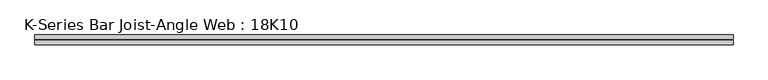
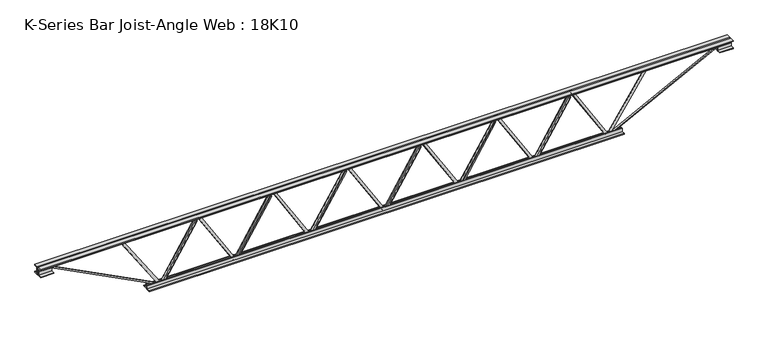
"""IFC4 building model written with IfcOpenShell, lengths in millimetres: beam geometry, K-Series Bar Joist-Angle Web : 18K10."""

from ifc_helpers import new_model, si_unit, frame, origin, place, context, project, spatial, polyline, outline, extrude, faceted_brep, source, transform, mapped, element, save


def k_series_bar_joist_angle_web_18k10_b23384f1(model_context):
    return source(origin(), model_context, "Body", "SolidModel", [
        extrude(outline(polyline([(-4.75, 4.7625), (-4.75, 0.0), (-17.45, 0.0), (-17.45, 4.7625), (-4.75, 4.7625)])), frame((1085.0781068, 0.0, -190.4), z_axis=(-0.5259305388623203, 0.0, 0.8505275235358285), x_axis=(0.0, -1.0, 0.0)), (0.0, 0.0, 1.0), 447.7221365),
        extrude(outline(polyline([(-225.325, 1118.3333333), (-206.275, 1118.3333333), (-206.275, 1117.292405), (225.325, 850.4090717), (225.325, 832.4), (206.275, 832.4), (206.275, 839.7909283), (-225.325, 1106.6742616), (-225.325, 1118.3333333)])), frame((0.0, 0.0, 0.0), z_axis=(0.0, 1.0, 0.0), x_axis=(0.0, 0.0, 1.0)), (0.0, 0.0, 1.0), 4.75),
        faceted_brep([(559.1666667, 0.0, -206.275), (559.1666667, 0.0, -225.325), (559.1666667, -4.75, -225.325), (559.1666667, -4.75, -206.275), (560.207595, 0.0, -206.275), (827.0909283, 0.0, 225.325), (845.1, 0.0, 225.325), (845.1, 0.0, 206.275), (837.7090717, 0.0, 206.275), (570.8257384, 0.0, -225.325), (570.8257384, -4.75, -225.325), (592.4218932, -4.75, -190.4), (588.3712559, -4.75, -187.8952558), (823.8420004, -4.75, 192.9047442), (827.8926377, -4.75, 190.4), (837.7090717, -4.75, 206.275), (845.1, -4.75, 206.275), (845.1, -4.75, 225.325), (827.0909283, -4.75, 225.325), (560.207595, -4.75, -206.275), (827.8926377, -17.4625, 190.4), (592.4218932, -17.4625, -190.4), (588.3712559, -17.4625, -187.8952558), (823.8420004, -17.4625, 192.9047442)], [[[0, 1, 2, 3]], [[1, 0, 4, 5, 6, 7, 8, 9]], [[2, 1, 9, 10]], [[3, 2, 10, 11, 12, 13, 14, 15, 16, 17, 18, 19]], [[0, 3, 19, 4]], [[9, 8, 15, 14, 20, 21, 11, 10]], [[5, 4, 19, 18]], [[7, 6, 17, 16]], [[8, 7, 16, 15]], [[6, 5, 18, 17]], [[21, 22, 12, 11]], [[20, 14, 13, 23]], [[22, 21, 20, 23]], [[12, 22, 23, 13]]]),
        extrude(outline(polyline([(-4.75, 4.7625001), (-4.75, 0.0), (-17.45, 0.0), (-17.45, 4.7625001), (-4.75, 4.7625001)])), frame((525.9114401, 0.0, -190.4), z_axis=(-0.5259305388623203, 0.0, 0.8505275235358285), x_axis=(0.0, -1.0, 0.0)), (0.0, 0.0, 1.0), 447.7221365),
        extrude(outline(polyline([(-225.325, 559.1666667), (-206.275, 559.1666667), (-206.275, 558.1257384), (225.325, 291.242405), (225.325, 273.2333333), (206.275, 273.2333333), (206.275, 280.6242616), (-225.325, 547.507595), (-225.325, 559.1666667)])), frame((0.0, 0.0, 0.0), z_axis=(0.0, 1.0, 0.0), x_axis=(0.0, 0.0, 1.0)), (0.0, 0.0, 1.0), 4.75),
        faceted_brep([(0.0, 0.0, -206.275), (0.0, 0.0, -225.325), (0.0, -4.75, -225.325), (0.0, -4.75, -206.275), (1.0409283, 0.0, -206.275), (267.9242616, 0.0, 225.325), (285.9333333, 0.0, 225.325), (285.9333333, 0.0, 206.275), (278.542405, 0.0, 206.275), (11.6590717, 0.0, -225.325), (11.6590717, -4.75, -225.325), (33.2552265, -4.75, -190.4), (29.2045892, -4.75, -187.8952558), (264.6753337, -4.75, 192.9047442), (268.725971, -4.75, 190.4), (278.542405, -4.75, 206.275), (285.9333333, -4.75, 206.275), (285.9333333, -4.75, 225.325), (267.9242616, -4.75, 225.325), (1.0409283, -4.75, -206.275), (268.725971, -17.4625, 190.4), (33.2552265, -17.4625, -190.4), (29.2045892, -17.4625, -187.8952558), (264.6753337, -17.4625, 192.9047442)], [[[0, 1, 2, 3]], [[1, 0, 4, 5, 6, 7, 8, 9]], [[2, 1, 9, 10]], [[3, 2, 10, 11, 12, 13, 14, 15, 16, 17, 18, 19]], [[0, 3, 19, 4]], [[9, 8, 15, 14, 20, 21, 11, 10]], [[5, 4, 19, 18]], [[7, 6, 17, 16]], [[8, 7, 16, 15]], [[6, 5, 18, 17]], [[21, 22, 12, 11]], [[20, 14, 13, 23]], [[22, 21, 20, 23]], [[12, 22, 23, 13]]]),
        extrude(outline(polyline([(-4.75, 4.7625), (-4.75, 0.0), (-17.45, 0.0), (-17.45, 4.7625), (-4.75, 4.7625)])), frame((-33.2552265, 0.0, -190.4), z_axis=(-0.5259305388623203, 0.0, 0.8505275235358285), x_axis=(0.0, -1.0, 0.0)), (0.0, 0.0, 1.0), 447.7221365),
        extrude(outline(polyline([(-225.325, 0.0), (-206.275, 0.0), (-206.275, -1.0409283), (225.325, -267.9242616), (225.325, -285.9333333), (206.275, -285.9333333), (206.275, -278.542405), (-225.325, -11.6590717), (-225.325, 0.0)])), frame((0.0, 0.0, 0.0), z_axis=(0.0, 1.0, 0.0), x_axis=(0.0, 0.0, 1.0)), (0.0, 0.0, 1.0), 4.75),
        faceted_brep([(-559.1666667, 0.0, -206.275), (-559.1666667, 0.0, -225.325), (-559.1666667, -4.75, -225.325), (-559.1666667, -4.75, -206.275), (-558.1257384, 0.0, -206.275), (-291.242405, 0.0, 225.325), (-273.2333333, 0.0, 225.325), (-273.2333333, 0.0, 206.275), (-280.6242616, 0.0, 206.275), (-547.507595, 0.0, -225.325), (-547.507595, -4.75, -225.325), (-525.9114401, -4.75, -190.4), (-529.9620775, -4.75, -187.8952558), (-294.491333, -4.75, 192.9047442), (-290.4406956, -4.75, 190.4), (-280.6242616, -4.75, 206.275), (-273.2333333, -4.75, 206.275), (-273.2333333, -4.75, 225.325), (-291.242405, -4.75, 225.325), (-558.1257384, -4.75, -206.275), (-290.4406956, -17.4625, 190.4), (-525.9114401, -17.4625, -190.4), (-529.9620775, -17.4625, -187.8952558), (-294.491333, -17.4625, 192.9047442)], [[[0, 1, 2, 3]], [[1, 0, 4, 5, 6, 7, 8, 9]], [[2, 1, 9, 10]], [[3, 2, 10, 11, 12, 13, 14, 15, 16, 17, 18, 19]], [[0, 3, 19, 4]], [[9, 8, 15, 14, 20, 21, 11, 10]], [[5, 4, 19, 18]], [[7, 6, 17, 16]], [[8, 7, 16, 15]], [[6, 5, 18, 17]], [[21, 22, 12, 11]], [[20, 14, 13, 23]], [[22, 21, 20, 23]], [[12, 22, 23, 13]]]),
        extrude(outline(polyline([(-4.75, 4.7625), (-4.75, 0.0), (-17.45, 0.0), (-17.45, 4.7625), (-4.75, 4.7625)])), frame((-592.4218932, 0.0, -190.4), z_axis=(-0.5259305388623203, 0.0, 0.8505275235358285), x_axis=(0.0, -1.0, 0.0)), (0.0, 0.0, 1.0), 447.7221365),
        extrude(outline(polyline([(-225.325, -559.1666667), (-206.275, -559.1666667), (-206.275, -560.207595), (225.325, -827.0909283), (225.325, -845.1), (206.275, -845.1), (206.275, -837.7090717), (-225.325, -570.8257384), (-225.325, -559.1666667)])), frame((0.0, 0.0, 0.0), z_axis=(0.0, 1.0, 0.0), x_axis=(0.0, 0.0, 1.0)), (0.0, 0.0, 1.0), 4.75),
        faceted_brep([(-1118.3333333, 0.0, -206.275), (-1118.3333333, 0.0, -225.325), (-1118.3333333, -4.75, -225.325), (-1118.3333333, -4.75, -206.275), (-1117.292405, 0.0, -206.275), (-850.4090717, 0.0, 225.325), (-832.4, 0.0, 225.325), (-832.4, 0.0, 206.275), (-839.7909283, 0.0, 206.275), (-1106.6742616, 0.0, -225.325), (-1106.6742616, -4.75, -225.325), (-1085.0781068, -4.75, -190.4), (-1089.1287441, -4.75, -187.8952558), (-853.6579996, -4.75, 192.9047442), (-849.6073623, -4.75, 190.4), (-839.7909283, -4.75, 206.275), (-832.4, -4.75, 206.275), (-832.4, -4.75, 225.325), (-850.4090717, -4.75, 225.325), (-1117.292405, -4.75, -206.275), (-849.6073623, -17.4625, 190.4), (-1085.0781068, -17.4625, -190.4), (-1089.1287441, -17.4625, -187.8952558), (-853.6579996, -17.4625, 192.9047442)], [[[0, 1, 2, 3]], [[1, 0, 4, 5, 6, 7, 8, 9]], [[2, 1, 9, 10]], [[3, 2, 10, 11, 12, 13, 14, 15, 16, 17, 18, 19]], [[0, 3, 19, 4]], [[9, 8, 15, 14, 20, 21, 11, 10]], [[5, 4, 19, 18]], [[7, 6, 17, 16]], [[8, 7, 16, 15]], [[6, 5, 18, 17]], [[21, 22, 12, 11]], [[20, 14, 13, 23]], [[22, 21, 20, 23]], [[12, 22, 23, 13]]]),
        extrude(outline(polyline([(-4.75, 4.7625), (-4.75, 0.0), (-17.45, 0.0), (-17.45, 4.7625), (-4.75, 4.7625)])), frame((1644.2447735, 0.0, -190.4), z_axis=(-0.5259305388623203, 0.0, 0.8505275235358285), x_axis=(0.0, -1.0, 0.0)), (0.0, 0.0, 1.0), 447.7221365),
        extrude(outline(polyline([(-225.325, 1677.5), (-206.275, 1677.5), (-206.275, 1676.4590717), (225.325, 1409.5757384), (225.325, 1391.5666667), (206.275, 1391.5666667), (206.275, 1398.957595), (-225.325, 1665.8409283), (-225.325, 1677.5)])), frame((0.0, 0.0, 0.0), z_axis=(0.0, 1.0, 0.0), x_axis=(0.0, 0.0, 1.0)), (0.0, 0.0, 1.0), 4.75),
        faceted_brep([(1118.3333333, 0.0, -206.275), (1118.3333333, 0.0, -225.325), (1118.3333333, -4.75, -225.325), (1118.3333333, -4.75, -206.275), (1119.3742616, 0.0, -206.275), (1386.257595, 0.0, 225.325), (1404.2666667, 0.0, 225.325), (1404.2666667, 0.0, 206.275), (1396.8757384, 0.0, 206.275), (1129.992405, 0.0, -225.325), (1129.992405, -4.75, -225.325), (1151.5885599, -4.75, -190.4), (1147.5379225, -4.75, -187.8952558), (1383.008667, -4.75, 192.9047442), (1387.0593044, -4.75, 190.4), (1396.8757384, -4.75, 206.275), (1404.2666667, -4.75, 206.275), (1404.2666667, -4.75, 225.325), (1386.257595, -4.75, 225.325), (1119.3742616, -4.75, -206.275), (1387.0593044, -17.4625, 190.4), (1151.5885599, -17.4625, -190.4), (1147.5379225, -17.4625, -187.8952558), (1383.008667, -17.4625, 192.9047442)], [[[0, 1, 2, 3]], [[1, 0, 4, 5, 6, 7, 8, 9]], [[2, 1, 9, 10]], [[3, 2, 10, 11, 12, 13, 14, 15, 16, 17, 18, 19]], [[0, 3, 19, 4]], [[9, 8, 15, 14, 20, 21, 11, 10]], [[5, 4, 19, 18]], [[7, 6, 17, 16]], [[8, 7, 16, 15]], [[6, 5, 18, 17]], [[21, 22, 12, 11]], [[20, 14, 13, 23]], [[22, 21, 20, 23]], [[12, 22, 23, 13]]]),
        extrude(outline(polyline([(-4.75, 4.7625001), (-4.75, 0.0), (-17.45, 0.0), (-17.45, 4.7625001), (-4.75, 4.7625001)])), frame((-1151.5885599, 0.0, -190.4), z_axis=(-0.5259305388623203, 0.0, 0.8505275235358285), x_axis=(0.0, -1.0, 0.0)), (0.0, 0.0, 1.0), 447.7221365),
        extrude(outline(polyline([(-225.325, -1118.3333333), (-206.275, -1118.3333333), (-206.275, -1119.3742616), (225.325, -1386.257595), (225.325, -1404.2666667), (206.275, -1404.2666667), (206.275, -1396.8757384), (-225.325, -1129.992405), (-225.325, -1118.3333333)])), frame((0.0, 0.0, 0.0), z_axis=(0.0, 1.0, 0.0), x_axis=(0.0, 0.0, 1.0)), (0.0, 0.0, 1.0), 4.75),
        faceted_brep([(-1677.5, 0.0, -206.275), (-1677.5, 0.0, -225.325), (-1677.5, -4.75, -225.325), (-1677.5, -4.75, -206.275), (-1676.4590717, 0.0, -206.275), (-1409.5757384, 0.0, 225.325), (-1391.5666667, 0.0, 225.325), (-1391.5666667, 0.0, 206.275), (-1398.957595, 0.0, 206.275), (-1665.8409283, 0.0, -225.325), (-1665.8409283, -4.75, -225.325), (-1644.2447735, -4.75, -190.4), (-1648.2954108, -4.75, -187.8952558), (-1412.8246663, -4.75, 192.9047442), (-1408.774029, -4.75, 190.4), (-1398.957595, -4.75, 206.275), (-1391.5666667, -4.75, 206.275), (-1391.5666667, -4.75, 225.325), (-1409.5757384, -4.75, 225.325), (-1676.4590717, -4.75, -206.275), (-1408.774029, -17.4625, 190.4), (-1644.2447735, -17.4625, -190.4), (-1648.2954108, -17.4625, -187.8952558), (-1412.8246663, -17.4625, 192.9047442)], [[[0, 1, 2, 3]], [[1, 0, 4, 5, 6, 7, 8, 9]], [[2, 1, 9, 10]], [[3, 2, 10, 11, 12, 13, 14, 15, 16, 17, 18, 19]], [[0, 3, 19, 4]], [[9, 8, 15, 14, 20, 21, 11, 10]], [[5, 4, 19, 18]], [[7, 6, 17, 16]], [[8, 7, 16, 15]], [[6, 5, 18, 17]], [[21, 22, 12, 11]], [[20, 14, 13, 23]], [[22, 21, 20, 23]], [[12, 22, 23, 13]]]),
        extrude(outline(polyline([(4.75, 228.5), (36.75, 228.5), (36.75, 222.0), (11.25, 222.0), (11.25, 196.5), (4.75, 196.5), (4.75, 228.5)])), frame((-2591.5, 0.0, 0.0), z_axis=(1.0, 0.0, 0.0), x_axis=(0.0, 1.0, 0.0)), (0.0, 0.0, 1.0), 5183.0),
        extrude(outline(polyline([(-4.75, 228.5), (-4.75, 196.5), (-11.25, 196.5), (-11.25, 222.0), (-36.75, 222.0), (-36.75, 228.5), (-4.75, 228.5)])), frame((-2591.5, 0.0, 0.0), z_axis=(1.0, 0.0, 0.0), x_axis=(0.0, 1.0, 0.0)), (0.0, 0.0, 1.0), 5183.0),
        extrude(outline(polyline([(4.75, -228.5), (4.75, -196.5), (11.25, -196.5), (11.25, -222.0), (36.75, -222.0), (36.75, -228.5), (4.75, -228.5)])), frame((-1777.5, 0.0, 0.0), z_axis=(1.0, 0.0, 0.0), x_axis=(0.0, 1.0, 0.0)), (0.0, 0.0, 1.0), 3555.0),
        extrude(outline(polyline([(-4.75, -228.5), (-36.75, -228.5), (-36.75, -222.0), (-11.25, -222.0), (-11.25, -196.5), (-4.75, -196.5), (-4.75, -228.5)])), frame((-1777.5, 0.0, 0.0), z_axis=(1.0, 0.0, 0.0), x_axis=(0.0, 1.0, 0.0)), (0.0, 0.0, 1.0), 3555.0),
        extrude(outline(polyline([(4.75, 165.0), (4.75, 196.5), (11.25, 196.5), (11.25, 171.5), (36.75, 171.5), (36.75, 165.0), (4.75, 165.0)])), frame((2491.5, 0.0, 0.0), z_axis=(1.0, 0.0, 0.0), x_axis=(0.0, 1.0, 0.0)), (0.0, 0.0, 1.0), 100.0),
        extrude(outline(polyline([(-4.75, 165.0), (-36.75, 165.0), (-36.75, 171.5), (-11.25, 171.5), (-11.25, 196.5), (-4.75, 196.5), (-4.75, 165.0)])), frame((2491.5, 0.0, 0.0), z_axis=(1.0, 0.0, 0.0), x_axis=(0.0, 1.0, 0.0)), (0.0, 0.0, 1.0), 100.0),
        extrude(outline(polyline([(-4.75, 165.0), (-36.75, 165.0), (-36.75, 171.5), (-11.25, 171.5), (-11.25, 196.5), (-4.75, 196.5), (-4.75, 165.0)])), frame((-2591.5, 0.0, 0.0), z_axis=(1.0, 0.0, 0.0), x_axis=(0.0, 1.0, 0.0)), (0.0, 0.0, 1.0), 100.0),
        extrude(outline(polyline([(36.75, 165.0), (4.75, 165.0), (4.75, 196.5), (11.25, 196.5), (11.25, 171.5), (36.75, 171.5), (36.75, 165.0)])), frame((-2591.5, 0.0, 0.0), z_axis=(1.0, 0.0, 0.0), x_axis=(0.0, 1.0, 0.0)), (0.0, 0.0, 1.0), 100.0),
        extrude(outline(polyline([(219.4566712, -1977.0404762), (200.4066712, -1977.0404762), (200.4066712, -1969.1886607), (-227.1555443, -1685.0316878), (-216.6112391, -1669.1659976), (219.4566712, -1958.9758378), (219.4566712, -1977.0404762)])), frame((0.0, 0.0, 0.0), z_axis=(0.0, 1.0, 0.0), x_axis=(0.0, 0.0, 1.0)), (0.0, 0.0, 1.0), 4.7625),
        extrude(outline(polyline([(-4.7625, -10.5646146), (-4.7625, 8.4853854), (0.0, 8.4853854), (0.0, -10.5646146), (-4.7625, -10.5646146)])), frame((1677.5, 0.0, -222.15), z_axis=(0.5553646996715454, 0.0, 0.8316069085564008), x_axis=(0.0, -1.0, 0.0)), (0.0, 0.0, 1.0), 503.4229462),
        extrude(outline(polyline([(-226.3740718, -1679.672491), (-217.9259282, -1675.327509), (201.25, -2490.3500948), (201.25, -2591.5), (191.75, -2591.5), (191.75, -2492.6499052), (-226.3740718, -1679.672491)])), frame((0.0, -4.75, 0.0), z_axis=(0.0, 1.0, 0.0), x_axis=(0.0, 0.0, 1.0)), (0.0, 0.0, 1.0), 9.5),
        extrude(outline(polyline([(0.0, -9.5), (0.0, 0.0), (915.3490168, 0.0), (915.3490168, -9.5), (0.0, -9.5)])), frame((2493.672491, -4.75, 192.2759282), z_axis=(-0.45736652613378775, 0.0, 0.8892782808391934), x_axis=(-0.8892782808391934, 0.0, -0.45736652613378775)), (0.0, 0.0, 1.0), 9.5),
    ])


if __name__ == "__main__":
    model = new_model("IFC4")
    model_context = context("Model", 3, world=origin())
    ifc_project = project(units=[si_unit("LENGTHUNIT", "METRE", prefix="MILLI")], contexts=[model_context])
    site = spatial("IfcSite", under=ifc_project)
    building = spatial("IfcBuilding", under=site)
    placement = place(None, origin())
    k_series_bar_joist_angle_web_18k10_shape = k_series_bar_joist_angle_web_18k10_b23384f1(model_context)
    element("IfcBeam", 1, ObjectType="K-Series Bar Joist-Angle Web : 18K10", at=placement, inside=building, context=model_context, shape_type="MappedRepresentation", body=[
        mapped(k_series_bar_joist_angle_web_18k10_shape, transform((0.0, 0.0, 0.0), x_axis=(1.0, 0.0, 0.0), y_axis=(0.0, 1.0, 0.0), z_axis=(0.0, 0.0, 1.0))),
    ])
    save(model, "model.ifc")
